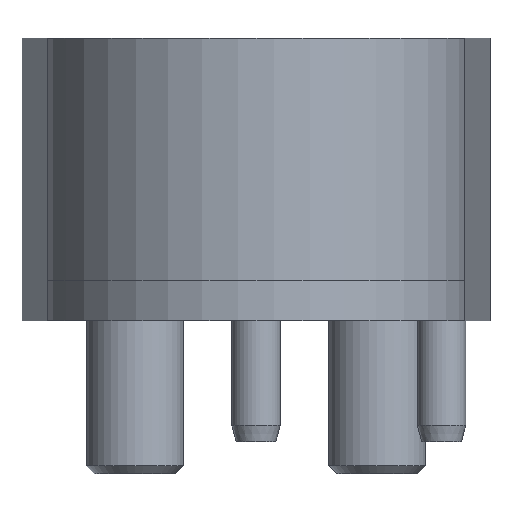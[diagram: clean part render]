
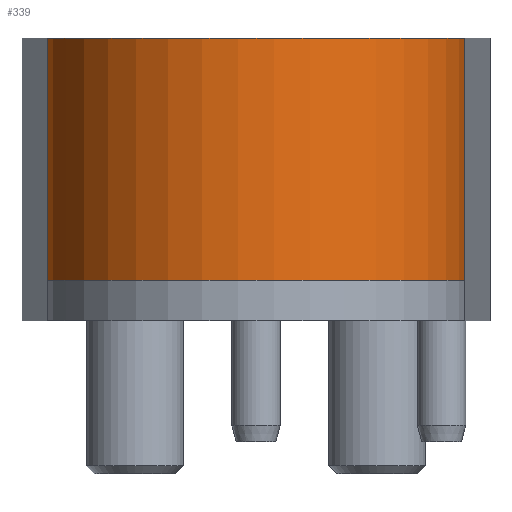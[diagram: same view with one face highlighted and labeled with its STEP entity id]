
A CAD part, left-side view. The second image highlights one B-rep face of the part: STEP entity #339.
In plain terms, the highlighted cylindrical face has radius 26 mm (diameter 52 mm), a partial arc.
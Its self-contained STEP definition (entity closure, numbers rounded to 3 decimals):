
#252=CYLINDRICAL_SURFACE('',#2658,26.);
#339=ADVANCED_FACE('',(#513),#252,.T.);
#513=FACE_OUTER_BOUND('',#663,.T.);
#663=EDGE_LOOP('',(#1149,#1150,#1151,#1152));
#845=CIRCLE('',#2656,26.);
#846=CIRCLE('',#2657,26.);
#1149=ORIENTED_EDGE('',*,*,#1941,.T.);
#1150=ORIENTED_EDGE('',*,*,#1942,.F.);
#1151=ORIENTED_EDGE('',*,*,#1943,.F.);
#1152=ORIENTED_EDGE('',*,*,#1944,.T.);
#1685=VERTEX_POINT('',#3915);
#1686=VERTEX_POINT('',#3916);
#1687=VERTEX_POINT('',#3918);
#1688=VERTEX_POINT('',#3920);
#1941=EDGE_CURVE('',#1685,#1686,#2223,.T.);
#1942=EDGE_CURVE('',#1687,#1686,#845,.T.);
#1943=EDGE_CURVE('',#1688,#1687,#2224,.T.);
#1944=EDGE_CURVE('',#1688,#1685,#846,.T.);
#2223=LINE('',#3914,#2413);
#2224=LINE('',#3919,#2414);
#2413=VECTOR('',#3104,1.);
#2414=VECTOR('',#3107,1.);
#2656=AXIS2_PLACEMENT_3D('',#3917,#3105,#3106);
#2657=AXIS2_PLACEMENT_3D('',#3921,#3108,#3109);
#2658=AXIS2_PLACEMENT_3D('',#3922,#3110,#3111);
#3104=DIRECTION('',(0.,0.,1.));
#3105=DIRECTION('',(0.,0.,1.));
#3106=DIRECTION('',(1.,0.,0.));
#3107=DIRECTION('',(0.,0.,1.));
#3108=DIRECTION('',(0.,0.,1.));
#3109=DIRECTION('',(1.,0.,0.));
#3110=DIRECTION('',(0.,0.,1.));
#3111=DIRECTION('',(-1.,0.,0.));
#3914=CARTESIAN_POINT('',(-2.342,-25.894,5.));
#3915=CARTESIAN_POINT('',(-2.342,-25.894,5.));
#3916=CARTESIAN_POINT('',(-2.342,-25.894,35.));
#3917=CARTESIAN_POINT('',(0.,0.,35.));
#3918=CARTESIAN_POINT('',(-2.342,25.894,35.));
#3919=CARTESIAN_POINT('',(-2.342,25.894,5.));
#3920=CARTESIAN_POINT('',(-2.342,25.894,5.));
#3921=CARTESIAN_POINT('',(0.,0.,5.));
#3922=CARTESIAN_POINT('',(0.,0.,0.));
